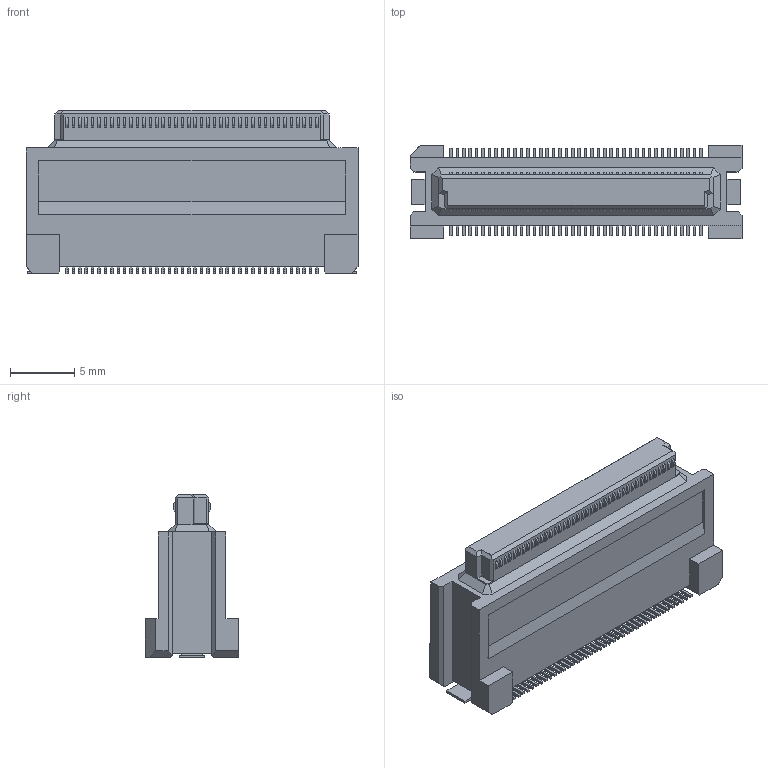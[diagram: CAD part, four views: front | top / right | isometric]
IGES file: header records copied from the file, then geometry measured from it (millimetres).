
Start section: Elysium IGES Interface
Global section: file name: C:\Users\1354\Desktop\DY10-080FS-4.igs; native system: Creo Elements/Direct Modeling 19.0F  14-Feb-2017; preprocessor: Creo Element/Direct IGES_3D V2.2; author: Unknown; organization: Unknown; date: 20171127.164859; units: millimetre
Bounding box: 25.9 x 7.3 x 12.73 mm (x, y, z)
Volume: 1313 mm3; surface area: 1226.6 mm2
Topology: 1 solids, 1 shells, 1190 faces, 3273 edges, 2170 vertices
Faces by surface type: bspline 1190
